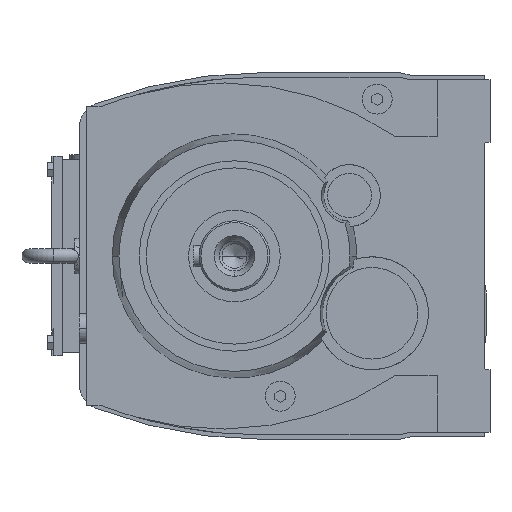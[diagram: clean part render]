
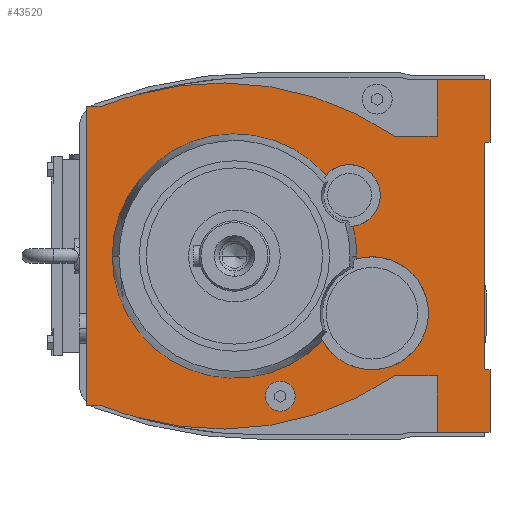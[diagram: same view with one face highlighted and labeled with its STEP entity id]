
A CAD part, left-side view. The second image highlights one B-rep face of the part: STEP entity #43520.
In plain terms, the highlighted planar face has unit normal (-1, 0, 0).
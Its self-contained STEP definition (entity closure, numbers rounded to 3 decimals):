
#1090=CARTESIAN_POINT('',(50.,-73.856,31.));
#1100=VERTEX_POINT('',#1090);
#1130=CARTESIAN_POINT('',(50.,24.429,-113.793));
#1140=DIRECTION('',(-1.,0.,0.));
#1150=DIRECTION('',(0.,-1.,0.));
#1160=AXIS2_PLACEMENT_3D('',#1130,#1140,#1150);
#1170=CIRCLE('',#1160,175.);
#1180=CARTESIAN_POINT('',(50.,72.666,54.428));
#1190=VERTEX_POINT('',#1180);
#1200=EDGE_CURVE('',#1100,#1190,#1170,.T.);
#1820=CARTESIAN_POINT('',(50.,-52.306,-37.));
#1830=VERTEX_POINT('',#1820);
#1860=CARTESIAN_POINT('',(50.,17.,-37.));
#1870=DIRECTION('',(1.,0.,0.));
#1880=DIRECTION('',(0.,-1.,0.));
#1890=AXIS2_PLACEMENT_3D('',#1860,#1870,#1880);
#1900=CIRCLE('',#1890,69.306);
#1910=CARTESIAN_POINT('',(50.,-52.285,-38.693));
#1920=VERTEX_POINT('',#1910);
#1930=EDGE_CURVE('',#1830,#1920,#1900,.T.);
#3530=CARTESIAN_POINT('',(50.,92.,-122.055));
#3540=VERTEX_POINT('',#3530);
#3710=CARTESIAN_POINT('',(50.,92.,48.055));
#3720=VERTEX_POINT('',#3710);
#3750=CARTESIAN_POINT('',(50.,92.,0.));
#3760=DIRECTION('',(0.,0.,-1.));
#3770=VECTOR('',#3760,1.);
#3780=LINE('',#3750,#3770);
#3790=CARTESIAN_POINT('',(50.,92.,48.));
#3800=VERTEX_POINT('',#3790);
#3810=EDGE_CURVE('',#3720,#3800,#3780,.T.);
#3940=CARTESIAN_POINT('',(50.,92.,-122.));
#3950=VERTEX_POINT('',#3940);
#3980=EDGE_CURVE('',#3950,#3540,#3780,.T.);
#4260=CARTESIAN_POINT('',(50.,1.,-195.5));
#4270=DIRECTION('',(1.,0.,0.));
#4280=DIRECTION('',(0.,1.,0.));
#4290=AXIS2_PLACEMENT_3D('',#4260,#4270,#4280);
#4300=CIRCLE('',#4290,260.);
#4310=EDGE_CURVE('',#3720,#1190,#4300,.T.);
#19440=CARTESIAN_POINT('',(50.,86.306,-37.));
#19450=VERTEX_POINT('',#19440);
#19480=CARTESIAN_POINT('',(50.,17.,-37.));
#19490=DIRECTION('',(1.,0.,0.));
#19500=DIRECTION('',(0.,-1.,0.));
#19510=AXIS2_PLACEMENT_3D('',#19480,#19490,#19500);
#19520=CIRCLE('',#19510,69.306);
#19530=CARTESIAN_POINT('',(50.,-35.022,8.793));
#19540=VERTEX_POINT('',#19530);
#19550=EDGE_CURVE('',#19450,#19540,#19520,.T.);
#20290=CARTESIAN_POINT('',(50.,92.,48.));
#20300=DIRECTION('',(0.,1.,0.));
#20310=VECTOR('',#20300,1.);
#20320=LINE('',#20290,#20310);
#20330=CARTESIAN_POINT('',(50.,101.,48.));
#20340=VERTEX_POINT('',#20330);
#20350=EDGE_CURVE('',#3800,#20340,#20320,.T.);
#22520=CARTESIAN_POINT('',(50.,-62.582,7.312));
#22530=VERTEX_POINT('',#22520);
#22560=CARTESIAN_POINT('',(50.,-48.225,-2.694));
#22570=DIRECTION('',(1.,0.,0.));
#22580=DIRECTION('',(0.,0.82,-0.572));
#22590=AXIS2_PLACEMENT_3D('',#22560,#22570,#22580);
#22600=CIRCLE('',#22590,17.5);
#22610=CARTESIAN_POINT('',(50.,-50.209,-20.081));
#22620=VERTEX_POINT('',#22610);
#22630=EDGE_CURVE('',#22530,#22620,#22600,.T.);
#28450=CARTESIAN_POINT('',(50.,72.666,-128.428));
#28460=VERTEX_POINT('',#28450);
#28750=CARTESIAN_POINT('',(50.,1.,121.5));
#28760=DIRECTION('',(-1.,0.,0.));
#28770=DIRECTION('',(0.,1.,0.));
#28780=AXIS2_PLACEMENT_3D('',#28750,#28760,#28770);
#28790=CIRCLE('',#28780,260.);
#28800=EDGE_CURVE('',#3540,#28460,#28790,.T.);
#33760=CARTESIAN_POINT('',(50.,101.,-122.));
#33770=VERTEX_POINT('',#33760);
#33820=CARTESIAN_POINT('',(50.,101.,48.));
#33830=DIRECTION('',(0.,0.,-1.));
#33840=VECTOR('',#33830,1.);
#33850=LINE('',#33820,#33840);
#33860=EDGE_CURVE('',#20340,#33770,#33850,.T.);
#35560=CARTESIAN_POINT('',(50.,-90.549,-81.782));
#35570=VERTEX_POINT('',#35560);
#35700=CARTESIAN_POINT('',(50.,-61.008,-69.481));
#35710=DIRECTION('',(-1.,0.,0.));
#35720=DIRECTION('',(0.,-0.923,-0.384));
#35730=AXIS2_PLACEMENT_3D('',#35700,#35710,#35720);
#35740=CIRCLE('',#35730,32.);
#35750=EDGE_CURVE('',#35570,#1920,#35740,.T.);
#37960=CARTESIAN_POINT('',(50.,92.,-122.));
#37970=DIRECTION('',(0.,1.,0.));
#37980=VECTOR('',#37970,1.);
#37990=LINE('',#37960,#37980);
#38000=EDGE_CURVE('',#3950,#33770,#37990,.T.);
#40380=CARTESIAN_POINT('',(50.,24.429,39.793));
#40390=DIRECTION('',(1.,0.,0.));
#40400=DIRECTION('',(0.,-1.,0.));
#40410=AXIS2_PLACEMENT_3D('',#40380,#40390,#40400);
#40420=CIRCLE('',#40410,175.);
#40430=CARTESIAN_POINT('',(50.,-73.856,-105.));
#40440=VERTEX_POINT('',#40430);
#40450=EDGE_CURVE('',#40440,#28460,#40420,.T.);
#42190=CARTESIAN_POINT('',(50.,-102.371,19.16));
#42200=DIRECTION('',(-1.,0.,0.));
#42210=DIRECTION('',(0.,-1.,0.));
#42220=AXIS2_PLACEMENT_3D('',#42190,#42200,#42210);
#42230=PLANE('',#42220);
#42240=ORIENTED_EDGE('',*,*,#1930,.T.);
#42250=EDGE_CURVE('',#22620,#1830,#1900,.T.);
#42260=ORIENTED_EDGE('',*,*,#42250,.T.);
#42270=ORIENTED_EDGE('',*,*,#22630,.T.);
#42280=EDGE_CURVE('',#19540,#22530,#22600,.T.);
#42290=ORIENTED_EDGE('',*,*,#42280,.T.);
#42300=ORIENTED_EDGE('',*,*,#19550,.T.);
#42310=CARTESIAN_POINT('',(50.,-33.012,-84.98));
#42320=VERTEX_POINT('',#42310);
#42330=EDGE_CURVE('',#42320,#19450,#19520,.T.);
#42340=ORIENTED_EDGE('',*,*,#42330,.T.);
#42350=EDGE_CURVE('',#42320,#35570,#35740,.T.);
#42360=ORIENTED_EDGE('',*,*,#42350,.F.);
#42370=ORIENTED_EDGE('',*,*,#35750,.F.);
#42380=EDGE_LOOP('',(#42370,#42360,#42340,#42300,#42290,#42270,#42260,#42240));
#42390=FACE_BOUND('',#42380,.T.);
#42400=ORIENTED_EDGE('',*,*,#28800,.T.);
#42410=ORIENTED_EDGE('',*,*,#3980,.T.);
#42420=ORIENTED_EDGE('',*,*,#38000,.F.);
#42430=ORIENTED_EDGE('',*,*,#33860,.T.);
#42440=ORIENTED_EDGE('',*,*,#20350,.T.);
#42450=ORIENTED_EDGE('',*,*,#3810,.T.);
#42460=ORIENTED_EDGE('',*,*,#4310,.F.);
#42470=ORIENTED_EDGE('',*,*,#1200,.T.);
#42480=CARTESIAN_POINT('',(50.,0.,31.));
#42490=DIRECTION('',(0.,1.,0.));
#42500=VECTOR('',#42490,1.);
#42510=LINE('',#42480,#42500);
#42520=CARTESIAN_POINT('',(50.,-98.,31.));
#42530=VERTEX_POINT('',#42520);
#42540=EDGE_CURVE('',#42530,#1100,#42510,.T.);
#42550=ORIENTED_EDGE('',*,*,#42540,.T.);
#42560=CARTESIAN_POINT('',(50.,-98.,0.));
#42570=DIRECTION('',(0.,0.,-1.));
#42580=VECTOR('',#42570,1.);
#42590=LINE('',#42560,#42580);
#42600=CARTESIAN_POINT('',(50.,-98.,63.));
#42610=VERTEX_POINT('',#42600);
#42620=EDGE_CURVE('',#42610,#42530,#42590,.T.);
#42630=ORIENTED_EDGE('',*,*,#42620,.T.);
#42640=CARTESIAN_POINT('',(50.,0.,63.));
#42650=DIRECTION('',(0.,-1.,0.));
#42660=VECTOR('',#42650,1.);
#42670=LINE('',#42640,#42660);
#42680=CARTESIAN_POINT('',(50.,-128.,63.));
#42690=VERTEX_POINT('',#42680);
#42700=EDGE_CURVE('',#42610,#42690,#42670,.T.);
#42710=ORIENTED_EDGE('',*,*,#42700,.F.);
#42720=CARTESIAN_POINT('',(50.,-128.,0.));
#42730=DIRECTION('',(0.,0.,-1.));
#42740=VECTOR('',#42730,1.);
#42750=LINE('',#42720,#42740);
#42760=CARTESIAN_POINT('',(50.,-128.,27.464));
#42770=VERTEX_POINT('',#42760);
#42780=EDGE_CURVE('',#42690,#42770,#42750,.T.);
#42790=ORIENTED_EDGE('',*,*,#42780,.F.);
#42800=CARTESIAN_POINT('',(50.,0.,9.475));
#42810=DIRECTION('',(0.,-0.99,0.139));
#42820=VECTOR('',#42810,1.);
#42830=LINE('',#42800,#42820);
#42840=CARTESIAN_POINT('',(50.,-125.,27.042));
#42850=VERTEX_POINT('',#42840);
#42860=EDGE_CURVE('',#42850,#42770,#42830,.T.);
#42870=ORIENTED_EDGE('',*,*,#42860,.T.);
#42880=CARTESIAN_POINT('',(50.,-125.,0.));
#42890=DIRECTION('',(0.,0.,-1.));
#42900=VECTOR('',#42890,1.);
#42910=LINE('',#42880,#42900);
#42920=CARTESIAN_POINT('',(50.,-125.,-101.042));
#42930=VERTEX_POINT('',#42920);
#42940=EDGE_CURVE('',#42850,#42930,#42910,.T.);
#42950=ORIENTED_EDGE('',*,*,#42940,.F.);
#42960=CARTESIAN_POINT('',(50.,0.,-83.475));
#42970=DIRECTION('',(0.,0.99,0.139));
#42980=VECTOR('',#42970,1.);
#42990=LINE('',#42960,#42980);
#43000=CARTESIAN_POINT('',(50.,-128.,-101.464));
#43010=VERTEX_POINT('',#43000);
#43020=EDGE_CURVE('',#43010,#42930,#42990,.T.);
#43030=ORIENTED_EDGE('',*,*,#43020,.T.);
#43040=CARTESIAN_POINT('',(50.,-128.,0.));
#43050=DIRECTION('',(0.,0.,-1.));
#43060=VECTOR('',#43050,1.);
#43070=LINE('',#43040,#43060);
#43080=CARTESIAN_POINT('',(50.,-128.,-137.));
#43090=VERTEX_POINT('',#43080);
#43100=EDGE_CURVE('',#43010,#43090,#43070,.T.);
#43110=ORIENTED_EDGE('',*,*,#43100,.F.);
#43120=CARTESIAN_POINT('',(50.,0.,-137.));
#43130=DIRECTION('',(0.,1.,0.));
#43140=VECTOR('',#43130,1.);
#43150=LINE('',#43120,#43140);
#43160=CARTESIAN_POINT('',(50.,-98.,-137.));
#43170=VERTEX_POINT('',#43160);
#43180=EDGE_CURVE('',#43090,#43170,#43150,.T.);
#43190=ORIENTED_EDGE('',*,*,#43180,.F.);
#43200=CARTESIAN_POINT('',(50.,-98.,0.));
#43210=DIRECTION('',(0.,0.,-1.));
#43220=VECTOR('',#43210,1.);
#43230=LINE('',#43200,#43220);
#43240=CARTESIAN_POINT('',(50.,-98.,-105.));
#43250=VERTEX_POINT('',#43240);
#43260=EDGE_CURVE('',#43250,#43170,#43230,.T.);
#43270=ORIENTED_EDGE('',*,*,#43260,.T.);
#43280=CARTESIAN_POINT('',(50.,0.,-105.));
#43290=DIRECTION('',(0.,-1.,0.));
#43300=VECTOR('',#43290,1.);
#43310=LINE('',#43280,#43300);
#43320=EDGE_CURVE('',#40440,#43250,#43310,.T.);
#43330=ORIENTED_EDGE('',*,*,#43320,.T.);
#43340=ORIENTED_EDGE('',*,*,#40450,.F.);
#43350=EDGE_LOOP('',(#43340,#43330,#43270,#43190,#43110,#43030,#42950,#42870,#42790,#42710,#42630,#42550,#42470,#42460,#42450,#42440,#42430,#42420,#42410,#42400));
#43360=FACE_OUTER_BOUND('',#43350,.T.);
#43370=CARTESIAN_POINT('',(50.,-9.,-116.5));
#43380=DIRECTION('',(-1.,0.,0.));
#43390=DIRECTION('',(0.,1.,0.));
#43400=AXIS2_PLACEMENT_3D('',#43370,#43380,#43390);
#43410=CIRCLE('',#43400,8.5);
#43420=CARTESIAN_POINT('',(50.,-0.5,-116.5));
#43430=VERTEX_POINT('',#43420);
#43440=CARTESIAN_POINT('',(50.,-17.5,-116.5));
#43450=VERTEX_POINT('',#43440);
#43460=EDGE_CURVE('',#43430,#43450,#43410,.T.);
#43470=ORIENTED_EDGE('',*,*,#43460,.F.);
#43480=EDGE_CURVE('',#43450,#43430,#43410,.T.);
#43490=ORIENTED_EDGE('',*,*,#43480,.F.);
#43500=EDGE_LOOP('',(#43490,#43470));
#43510=FACE_BOUND('',#43500,.T.);
#43520=ADVANCED_FACE('',(#42390,#43360,#43510),#42230,.T.);
